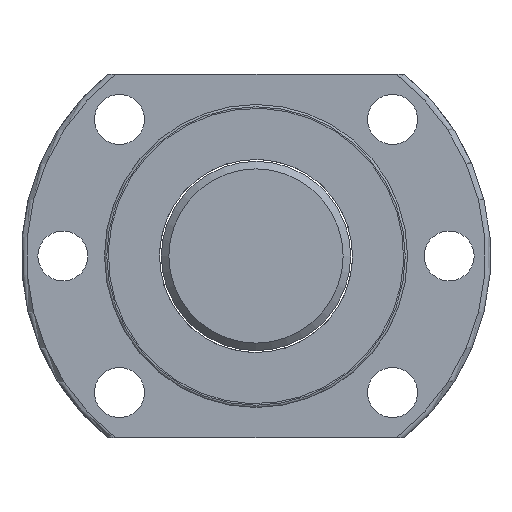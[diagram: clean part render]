
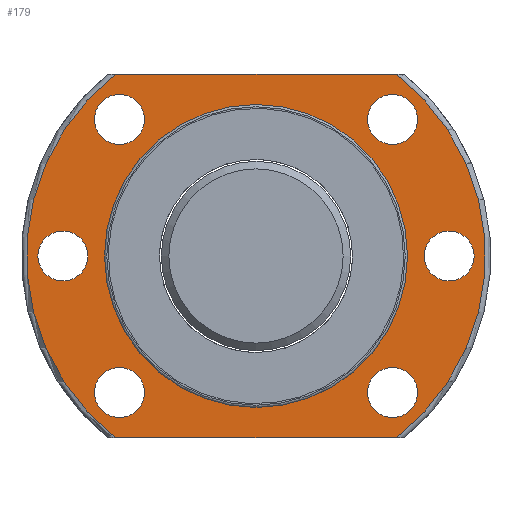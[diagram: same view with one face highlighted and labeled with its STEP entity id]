
A CAD part, left-side view. The second image highlights one B-rep face of the part: STEP entity #179.
In plain terms, the highlighted planar face has unit normal (-1, 0, 0).
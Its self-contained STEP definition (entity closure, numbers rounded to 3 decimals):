
#116=LINE('',#1192,#124);
#117=LINE('',#1196,#125);
#124=VECTOR('',#923,1.);
#125=VECTOR('',#926,1.);
#179=ADVANCED_FACE('',(#248,#249,#250,#251,#309,#252,#253,#254),#216,.F.);
#216=PLANE('',#778);
#248=FACE_BOUND('',#356,.T.);
#249=FACE_BOUND('',#357,.T.);
#250=FACE_BOUND('',#358,.T.);
#251=FACE_BOUND('',#359,.T.);
#252=FACE_BOUND('',#361,.T.);
#253=FACE_BOUND('',#362,.T.);
#254=FACE_BOUND('',#363,.T.);
#309=FACE_OUTER_BOUND('',#360,.T.);
#356=EDGE_LOOP('',(#464));
#357=EDGE_LOOP('',(#465));
#358=EDGE_LOOP('',(#466));
#359=EDGE_LOOP('',(#467));
#360=EDGE_LOOP('',(#468,#469,#470,#471));
#361=EDGE_LOOP('',(#472));
#362=EDGE_LOOP('',(#473));
#363=EDGE_LOOP('',(#474));
#464=ORIENTED_EDGE('',*,*,#642,.T.);
#465=ORIENTED_EDGE('',*,*,#643,.T.);
#466=ORIENTED_EDGE('',*,*,#644,.F.);
#467=ORIENTED_EDGE('',*,*,#645,.F.);
#468=ORIENTED_EDGE('',*,*,#627,.T.);
#469=ORIENTED_EDGE('',*,*,#646,.T.);
#470=ORIENTED_EDGE('',*,*,#647,.T.);
#471=ORIENTED_EDGE('',*,*,#648,.T.);
#472=ORIENTED_EDGE('',*,*,#649,.F.);
#473=ORIENTED_EDGE('',*,*,#650,.T.);
#474=ORIENTED_EDGE('',*,*,#651,.F.);
#567=VERTEX_POINT('',#1099);
#568=VERTEX_POINT('',#1101);
#580=VERTEX_POINT('',#1185);
#581=VERTEX_POINT('',#1187);
#582=VERTEX_POINT('',#1189);
#583=VERTEX_POINT('',#1191);
#584=VERTEX_POINT('',#1193);
#585=VERTEX_POINT('',#1195);
#586=VERTEX_POINT('',#1198);
#587=VERTEX_POINT('',#1200);
#588=VERTEX_POINT('',#1202);
#627=EDGE_CURVE('',#568,#567,#691,.T.);
#642=EDGE_CURVE('',#580,#580,#701,.T.);
#643=EDGE_CURVE('',#581,#581,#702,.T.);
#644=EDGE_CURVE('',#582,#582,#703,.T.);
#645=EDGE_CURVE('',#583,#583,#704,.T.);
#646=EDGE_CURVE('',#567,#584,#116,.T.);
#647=EDGE_CURVE('',#584,#585,#705,.T.);
#648=EDGE_CURVE('',#585,#568,#117,.T.);
#649=EDGE_CURVE('',#586,#586,#706,.T.);
#650=EDGE_CURVE('',#587,#587,#707,.T.);
#651=EDGE_CURVE('',#588,#588,#708,.T.);
#691=CIRCLE('',#757,30.3);
#701=CIRCLE('',#770,3.3);
#702=CIRCLE('',#771,3.3);
#703=CIRCLE('',#772,3.3);
#704=CIRCLE('',#773,20.);
#705=CIRCLE('',#774,30.3);
#706=CIRCLE('',#775,3.3);
#707=CIRCLE('',#776,3.3);
#708=CIRCLE('',#777,3.3);
#757=AXIS2_PLACEMENT_3D('',#1100,#887,#888);
#770=AXIS2_PLACEMENT_3D('',#1184,#915,#916);
#771=AXIS2_PLACEMENT_3D('',#1186,#917,#918);
#772=AXIS2_PLACEMENT_3D('',#1188,#919,#920);
#773=AXIS2_PLACEMENT_3D('',#1190,#921,#922);
#774=AXIS2_PLACEMENT_3D('',#1194,#924,#925);
#775=AXIS2_PLACEMENT_3D('',#1197,#927,#928);
#776=AXIS2_PLACEMENT_3D('',#1199,#929,#930);
#777=AXIS2_PLACEMENT_3D('',#1201,#931,#932);
#778=AXIS2_PLACEMENT_3D('',#1203,#933,#934);
#887=DIRECTION('',(-1.,0.,0.));
#888=DIRECTION('',(0.,0.,-1.));
#915=DIRECTION('',(1.,0.,0.));
#916=DIRECTION('',(0.,0.,-1.));
#917=DIRECTION('',(1.,0.,0.));
#918=DIRECTION('',(0.,0.,-1.));
#919=DIRECTION('',(-1.,0.,0.));
#920=DIRECTION('',(0.,0.,-1.));
#921=DIRECTION('',(-1.,0.,0.));
#922=DIRECTION('',(0.,0.,1.));
#923=DIRECTION('',(0.,1.,0.));
#924=DIRECTION('',(-1.,0.,0.));
#925=DIRECTION('',(0.,0.,-1.));
#926=DIRECTION('',(0.,-1.,0.));
#927=DIRECTION('',(-1.,0.,0.));
#928=DIRECTION('',(0.,0.,-1.));
#929=DIRECTION('',(1.,0.,0.));
#930=DIRECTION('',(0.,0.,-1.));
#931=DIRECTION('',(-1.,0.,0.));
#932=DIRECTION('',(0.,0.,-1.));
#933=DIRECTION('',(1.,0.,0.));
#934=DIRECTION('',(0.,0.,-1.));
#1099=CARTESIAN_POINT('',(39.,-18.496,24.));
#1100=CARTESIAN_POINT('',(39.,0.,0.));
#1101=CARTESIAN_POINT('',(39.,-18.496,-24.));
#1184=CARTESIAN_POINT('',(39.,25.5,0.));
#1185=CARTESIAN_POINT('',(39.,25.5,-3.3));
#1186=CARTESIAN_POINT('',(39.,18.031,18.031));
#1187=CARTESIAN_POINT('',(39.,18.031,14.731));
#1188=CARTESIAN_POINT('',(39.,-25.5,0.));
#1189=CARTESIAN_POINT('',(39.,-25.5,-3.3));
#1190=CARTESIAN_POINT('',(39.,0.,0.));
#1191=CARTESIAN_POINT('',(39.,0.,20.));
#1192=CARTESIAN_POINT('',(39.,-27.356,24.));
#1193=CARTESIAN_POINT('',(39.,18.496,24.));
#1194=CARTESIAN_POINT('',(39.,0.,0.));
#1195=CARTESIAN_POINT('',(39.,18.496,-24.));
#1196=CARTESIAN_POINT('',(39.,-27.356,-24.));
#1197=CARTESIAN_POINT('',(39.,-18.031,18.031));
#1198=CARTESIAN_POINT('',(39.,-18.031,14.731));
#1199=CARTESIAN_POINT('',(39.,-18.031,-18.031));
#1200=CARTESIAN_POINT('',(39.,-18.031,-21.331));
#1201=CARTESIAN_POINT('',(39.,18.031,-18.031));
#1202=CARTESIAN_POINT('',(39.,18.031,-21.331));
#1203=CARTESIAN_POINT('',(39.,-27.356,0.));
